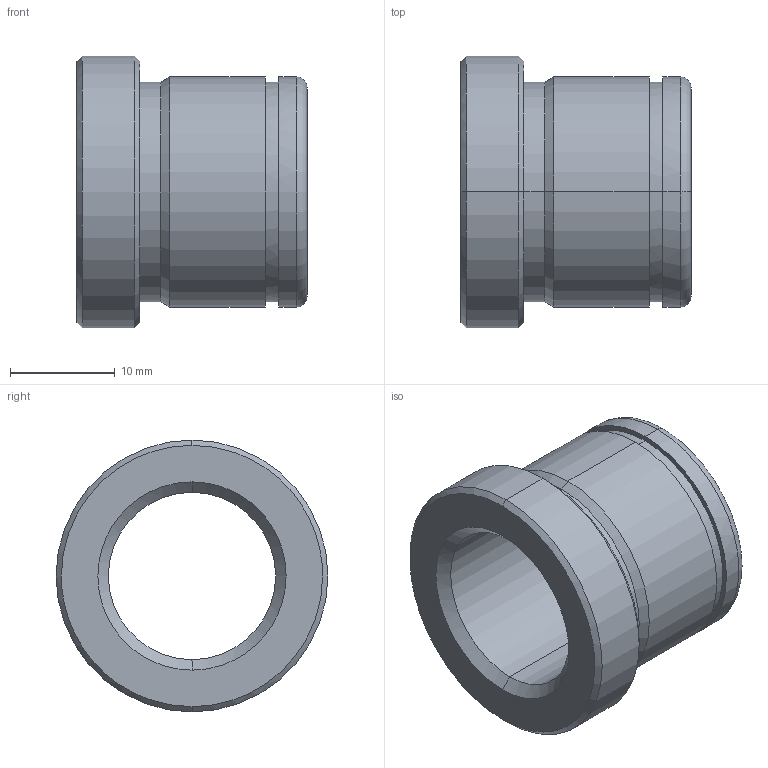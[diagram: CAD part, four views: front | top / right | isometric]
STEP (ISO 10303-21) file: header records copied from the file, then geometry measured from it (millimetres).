
FILE_DESCRIPTION(('CATIA V5 STEP Exchange'),'2;1');
FILE_NAME('C:\Users\Utente\Desktop\IO LAVORO\3D X SITO CF\X SITO\PLASTICA\553\553-16X22.stp','2021-05-21T18:59:32+00:00',('none'),('none'),'CATIA Version 5 Release 20 GA (IN-10)','CATIA V5 STEP AP203','none');
FILE_SCHEMA(('CONFIG_CONTROL_DESIGN'));
Length unit declared in the file: millimetre
Products named in the file (1): 553-16X22
Bounding box: 22 x 26 x 26 mm (x, y, z)
Volume: 4632 mm3; surface area: 3322 mm2
Topology: 1 solids, 1 shells, 29 faces, 92 edges, 68 vertices
Faces by surface type: cylinder 12, cone 8, plane 5, torus 4
Entity records: 1222 total; most frequent: CARTESIAN_POINT 368, ORIENTED_EDGE 184, DIRECTION 136, EDGE_CURVE 92, AXIS2_PLACEMENT_3D 88, VERTEX_POINT 68, CIRCLE 58, EDGE_LOOP 34
